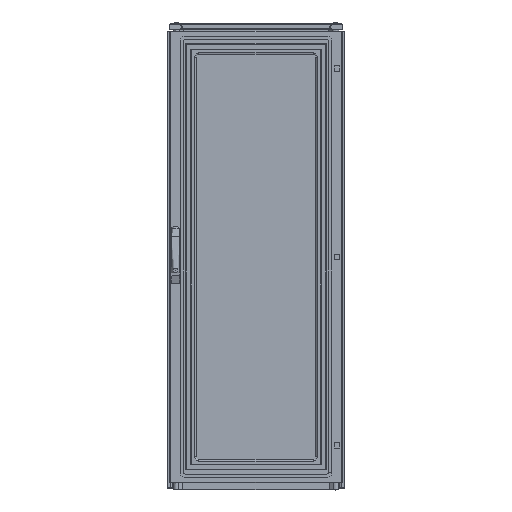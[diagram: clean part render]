
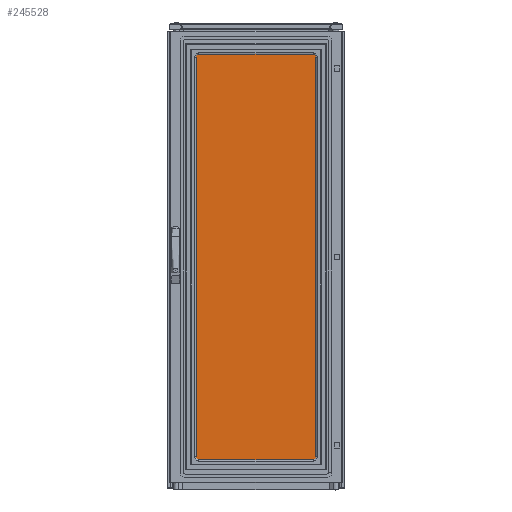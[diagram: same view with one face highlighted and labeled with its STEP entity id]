
A CAD part, top view. The second image highlights one B-rep face of the part: STEP entity #245528.
In plain terms, the highlighted planar face has unit normal (0, 0, 1).
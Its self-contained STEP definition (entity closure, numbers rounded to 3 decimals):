
#4251 = LINE ( 'NONE', #44861, #214420 ) ;
#7594 = EDGE_LOOP ( 'NONE', ( #158672, #49962, #216208, #254635 ) ) ;
#14936 = LINE ( 'NONE', #185613, #41880 ) ;
#36617 = VECTOR ( 'NONE', #47049, 1000. ) ;
#41880 = VECTOR ( 'NONE', #160501, 1000. ) ;
#44131 = EDGE_CURVE ( 'NONE', #100255, #250145, #108669, .T. ) ;
#44861 = CARTESIAN_POINT ( 'NONE',  ( 1431., 0., 4. ) ) ;
#47049 = DIRECTION ( 'NONE',  ( 0., -1., 0. ) ) ;
#49962 = ORIENTED_EDGE ( 'NONE', *, *, #70352, .T. ) ;
#60692 = CARTESIAN_POINT ( 'NONE',  ( 0., -446., 4. ) ) ;
#70352 = EDGE_CURVE ( 'NONE', #250145, #162830, #14936, .T. ) ;
#78951 = PLANE ( 'NONE',  #261574 ) ;
#80722 = EDGE_CURVE ( 'NONE', #162830, #164032, #4251, .T. ) ;
#100255 = VERTEX_POINT ( 'NONE', #157005 ) ;
#108669 = LINE ( 'NONE', #111407, #36617 ) ;
#111407 = CARTESIAN_POINT ( 'NONE',  ( 0., 0., 4. ) ) ;
#112684 = EDGE_CURVE ( 'NONE', #164032, #100255, #239628, .T. ) ;
#140567 = DIRECTION ( 'NONE',  ( 1., 0., 0. ) ) ;
#143295 = DIRECTION ( 'NONE',  ( 0., 0., 1. ) ) ;
#155826 = VECTOR ( 'NONE', #261974, 1000. ) ;
#157005 = CARTESIAN_POINT ( 'NONE',  ( 0., 0., 4. ) ) ;
#158672 = ORIENTED_EDGE ( 'NONE', *, *, #44131, .T. ) ;
#160501 = DIRECTION ( 'NONE',  ( 1., 0., 0. ) ) ;
#162830 = VERTEX_POINT ( 'NONE', #238437 ) ;
#164032 = VERTEX_POINT ( 'NONE', #265072 ) ;
#176659 = CARTESIAN_POINT ( 'NONE',  ( 0., 0., 4. ) ) ;
#183919 = FACE_OUTER_BOUND ( 'NONE', #7594, .T. ) ;
#185613 = CARTESIAN_POINT ( 'NONE',  ( 0., -446., 4. ) ) ;
#210318 = CARTESIAN_POINT ( 'NONE',  ( 0., -446., 4. ) ) ;
#211459 = DIRECTION ( 'NONE',  ( 0., 1., 0. ) ) ;
#214420 = VECTOR ( 'NONE', #211459, 1000. ) ;
#216208 = ORIENTED_EDGE ( 'NONE', *, *, #80722, .T. ) ;
#238437 = CARTESIAN_POINT ( 'NONE',  ( 1431., -446., 4. ) ) ;
#239628 = LINE ( 'NONE', #176659, #155826 ) ;
#245528 = ADVANCED_FACE ( 'NONE', ( #183919 ), #78951, .T. ) ;
#250145 = VERTEX_POINT ( 'NONE', #210318 ) ;
#254635 = ORIENTED_EDGE ( 'NONE', *, *, #112684, .T. ) ;
#261574 = AXIS2_PLACEMENT_3D ( 'NONE', #60692, #143295, #140567 ) ;
#261974 = DIRECTION ( 'NONE',  ( -1., 0., 0. ) ) ;
#265072 = CARTESIAN_POINT ( 'NONE',  ( 1431., 0., 4. ) ) ;
